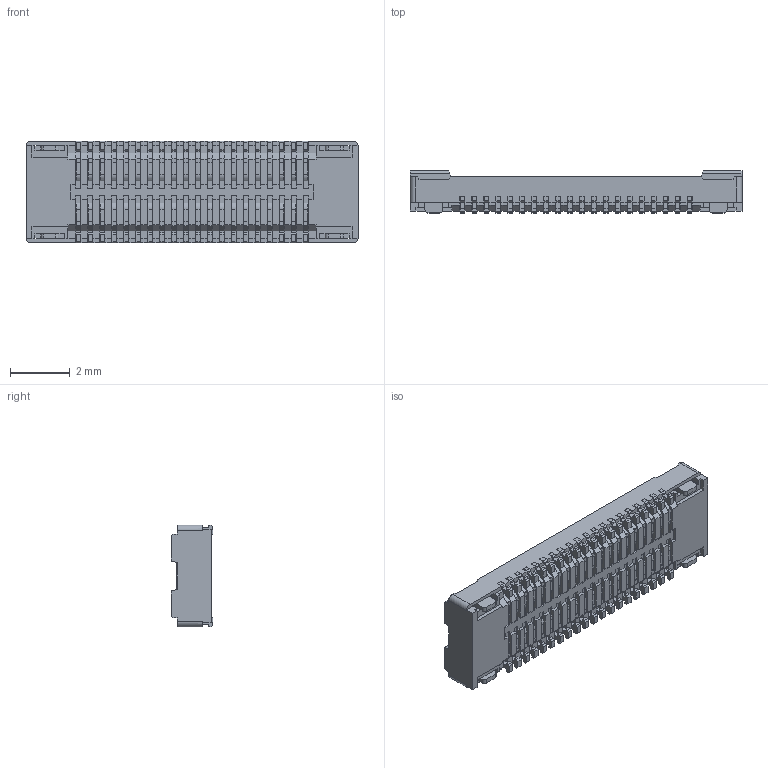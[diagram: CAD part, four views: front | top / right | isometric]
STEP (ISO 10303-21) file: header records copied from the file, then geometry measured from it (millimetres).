
FILE_DESCRIPTION((''),'2;1');
FILE_NAME('513380474','2014-01-29T',('me'),(''),'PRO/ENGINEER BY PARAMETRIC TECHNOLOGY CORPORATION, 2011490','PRO/ENGINEER BY PARAMETRIC TECHNOLOGY CORPORATION, 2011490','');
FILE_SCHEMA(('CONFIG_CONTROL_DESIGN'));
Products named in the file (1): 513380474
Bounding box: 11.1 x 1.4 x 3.41 mm (x, y, z)
Volume: 27.6 mm3; surface area: 253.1 mm2
Topology: 1 solids, 1 shells, 2513 faces, 7630 edges, 5072 vertices
Faces by surface type: plane 2397, cylinder 108, cone 8
Entity records: 83709 total; most frequent: CARTESIAN_POINT 15070, ORIENTED_EDGE 14908, DIRECTION 12874, EDGE_CURVE 7454, VECTOR 7398, LINE 7398, VERTEX_POINT 4896, AXIS2_PLACEMENT_3D 2738
